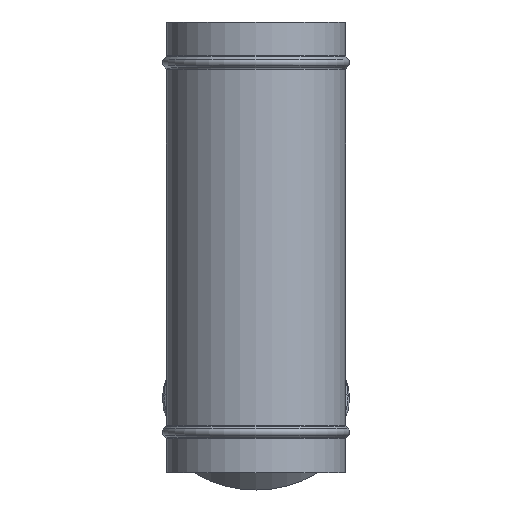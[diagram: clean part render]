
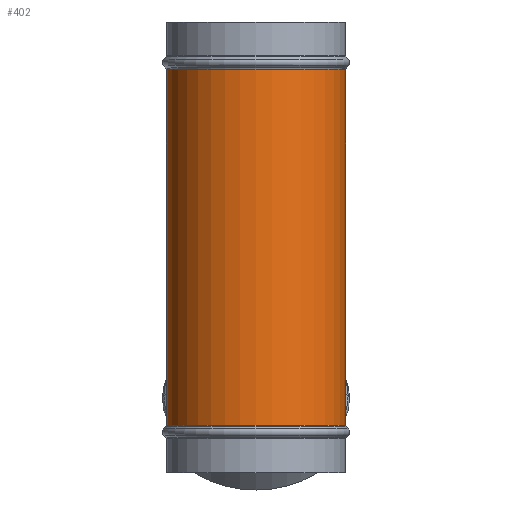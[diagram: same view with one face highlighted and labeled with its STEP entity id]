
A CAD part, top view. The second image highlights one B-rep face of the part: STEP entity #402.
In plain terms, the highlighted cylindrical face has radius 76.5 mm (diameter 153 mm), a partial arc.
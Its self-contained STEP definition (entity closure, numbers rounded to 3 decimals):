
#177=CYLINDRICAL_SURFACE('',#1439,76.5);
#211=FACE_OUTER_BOUND('',#505,.T.);
#287=LINE('',#2195,#339);
#288=LINE('',#2197,#340);
#291=LINE('',#2210,#343);
#292=LINE('',#2214,#344);
#339=VECTOR('',#1703,1.);
#340=VECTOR('',#1704,1.);
#343=VECTOR('',#1721,1.);
#344=VECTOR('',#1724,1.);
#402=ADVANCED_FACE('',(#211),#177,.T.);
#505=EDGE_LOOP('',(#651,#652,#653,#654,#655,#656));
#651=ORIENTED_EDGE('',*,*,#1098,.F.);
#652=ORIENTED_EDGE('',*,*,#1094,.T.);
#653=ORIENTED_EDGE('',*,*,#1097,.T.);
#654=ORIENTED_EDGE('',*,*,#1107,.T.);
#655=ORIENTED_EDGE('',*,*,#1108,.T.);
#656=ORIENTED_EDGE('',*,*,#1105,.F.);
#979=VERTEX_POINT('',#2188);
#980=VERTEX_POINT('',#2190);
#981=VERTEX_POINT('',#2196);
#982=VERTEX_POINT('',#2198);
#985=VERTEX_POINT('',#2211);
#986=VERTEX_POINT('',#2213);
#1094=EDGE_CURVE('',#980,#979,#1280,.T.);
#1097=EDGE_CURVE('',#979,#981,#287,.T.);
#1098=EDGE_CURVE('',#980,#982,#288,.T.);
#1105=EDGE_CURVE('',#982,#985,#291,.T.);
#1107=EDGE_CURVE('',#981,#986,#292,.T.);
#1108=EDGE_CURVE('',#986,#985,#1284,.T.);
#1280=CIRCLE('',#1424,76.5);
#1284=CIRCLE('',#1438,76.5);
#1424=AXIS2_PLACEMENT_3D('',#2189,#1693,#1694);
#1438=AXIS2_PLACEMENT_3D('',#2216,#1727,#1728);
#1439=AXIS2_PLACEMENT_3D('',#2217,#1729,#1730);
#1693=DIRECTION('',(0.,1.,0.));
#1694=DIRECTION('',(-1.,0.,0.));
#1703=DIRECTION('',(0.,1.,0.));
#1704=DIRECTION('',(0.,1.,0.));
#1721=DIRECTION('',(0.,1.,0.));
#1724=DIRECTION('',(0.,1.,0.));
#1727=DIRECTION('',(0.,-1.,0.));
#1728=DIRECTION('',(1.,0.,0.));
#1729=DIRECTION('',(0.,1.,0.));
#1730=DIRECTION('',(-1.,0.,0.));
#2188=CARTESIAN_POINT('',(156.5,40.278,-80.));
#2189=CARTESIAN_POINT('',(80.,40.278,-80.));
#2190=CARTESIAN_POINT('',(3.5,40.278,-80.));
#2195=CARTESIAN_POINT('',(156.5,40.278,-80.));
#2196=CARTESIAN_POINT('',(156.5,280.,-80.));
#2197=CARTESIAN_POINT('',(3.5,40.278,-80.));
#2198=CARTESIAN_POINT('',(3.5,280.,-80.));
#2210=CARTESIAN_POINT('',(3.5,280.,-80.));
#2211=CARTESIAN_POINT('',(3.5,344.722,-80.));
#2213=CARTESIAN_POINT('',(156.5,344.722,-80.));
#2214=CARTESIAN_POINT('',(156.5,280.,-80.));
#2216=CARTESIAN_POINT('',(80.,344.722,-80.));
#2217=CARTESIAN_POINT('',(80.,-19.25,-80.));
